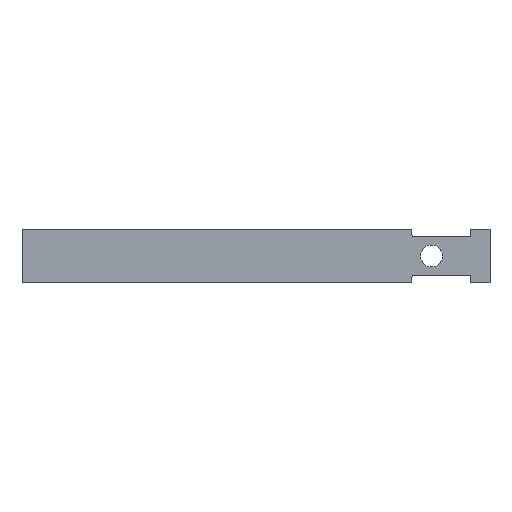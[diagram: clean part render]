
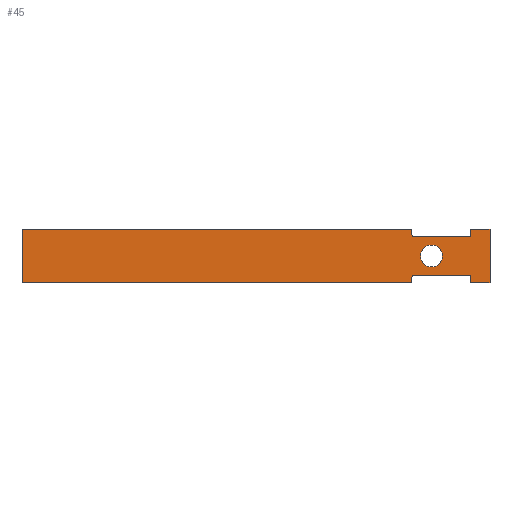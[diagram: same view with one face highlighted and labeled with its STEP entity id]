
A CAD part, top view. The second image highlights one B-rep face of the part: STEP entity #45.
In plain terms, the highlighted planar face has unit normal (0, 0, 1).
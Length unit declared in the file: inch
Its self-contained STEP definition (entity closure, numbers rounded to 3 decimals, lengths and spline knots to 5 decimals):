
#45=ADVANCED_FACE('',(#100,#101),#102,.T.);
#100=FACE_BOUND('',#171,.T.);
#101=FACE_OUTER_BOUND('',#172,.T.);
#102=PLANE('',#173);
#171=EDGE_LOOP('',(#252,#253,#254,#255));
#172=EDGE_LOOP('',(#256,#257,#258,#259,#260,#261,#262,#263,#264,#265,#266,#267));
#173=AXIS2_PLACEMENT_3D('',#268,#269,#270);
#252=ORIENTED_EDGE('',*,*,#404,.F.);
#253=ORIENTED_EDGE('',*,*,#409,.F.);
#254=ORIENTED_EDGE('',*,*,#410,.F.);
#255=ORIENTED_EDGE('',*,*,#411,.F.);
#256=ORIENTED_EDGE('',*,*,#412,.T.);
#257=ORIENTED_EDGE('',*,*,#413,.F.);
#258=ORIENTED_EDGE('',*,*,#414,.F.);
#259=ORIENTED_EDGE('',*,*,#415,.F.);
#260=ORIENTED_EDGE('',*,*,#416,.F.);
#261=ORIENTED_EDGE('',*,*,#417,.F.);
#262=ORIENTED_EDGE('',*,*,#418,.F.);
#263=ORIENTED_EDGE('',*,*,#419,.F.);
#264=ORIENTED_EDGE('',*,*,#420,.F.);
#265=ORIENTED_EDGE('',*,*,#421,.F.);
#266=ORIENTED_EDGE('',*,*,#422,.F.);
#267=ORIENTED_EDGE('',*,*,#423,.F.);
#268=CARTESIAN_POINT('',(0.0,0.68751,0.105));
#269=DIRECTION('',(0.0,-0.0,1.0));
#270=DIRECTION('',(0.0,1.0,0.0));
#404=EDGE_CURVE('',#471,#472,#473,.T.);
#409=EDGE_CURVE('',#480,#471,#481,.T.);
#410=EDGE_CURVE('',#482,#480,#483,.T.);
#411=EDGE_CURVE('',#472,#482,#484,.T.);
#412=EDGE_CURVE('',#485,#486,#487,.T.);
#413=EDGE_CURVE('',#488,#486,#489,.T.);
#414=EDGE_CURVE('',#490,#488,#491,.T.);
#415=EDGE_CURVE('',#492,#490,#493,.T.);
#416=EDGE_CURVE('',#494,#492,#495,.T.);
#417=EDGE_CURVE('',#496,#494,#497,.T.);
#418=EDGE_CURVE('',#498,#496,#499,.T.);
#419=EDGE_CURVE('',#500,#498,#501,.T.);
#420=EDGE_CURVE('',#502,#500,#503,.T.);
#421=EDGE_CURVE('',#504,#502,#505,.T.);
#422=EDGE_CURVE('',#506,#504,#507,.T.);
#423=EDGE_CURVE('',#485,#506,#508,.T.);
#471=VERTEX_POINT('',#570);
#472=VERTEX_POINT('',#571);
#473=B_SPLINE_CURVE_WITH_KNOTS('',3,(#572,#573,#574,#575),.UNSPECIFIED.,.F.,.F.,(4,4),(-1.0,-0.0),.UNSPECIFIED.);
#480=VERTEX_POINT('',#587);
#481=B_SPLINE_CURVE_WITH_KNOTS('',3,(#588,#589,#590,#591),.UNSPECIFIED.,.F.,.F.,(4,4),(-1.0,-0.0),.UNSPECIFIED.);
#482=VERTEX_POINT('',#592);
#483=B_SPLINE_CURVE_WITH_KNOTS('',3,(#593,#594,#595,#596),.UNSPECIFIED.,.F.,.F.,(4,4),(-1.0,-0.0),.UNSPECIFIED.);
#484=B_SPLINE_CURVE_WITH_KNOTS('',3,(#597,#598,#599,#600),.UNSPECIFIED.,.F.,.F.,(4,4),(-1.0,-0.0),.UNSPECIFIED.);
#485=VERTEX_POINT('',#601);
#486=VERTEX_POINT('',#602);
#487=LINE('',#603,#604);
#488=VERTEX_POINT('',#605);
#489=LINE('',#606,#607);
#490=VERTEX_POINT('',#608);
#491=LINE('',#609,#610);
#492=VERTEX_POINT('',#611);
#493=LINE('',#612,#613);
#494=VERTEX_POINT('',#614);
#495=LINE('',#615,#616);
#496=VERTEX_POINT('',#617);
#497=LINE('',#618,#619);
#498=VERTEX_POINT('',#620);
#499=LINE('',#621,#622);
#500=VERTEX_POINT('',#623);
#501=LINE('',#624,#625);
#502=VERTEX_POINT('',#626);
#503=LINE('',#627,#628);
#504=VERTEX_POINT('',#629);
#505=LINE('',#630,#631);
#506=VERTEX_POINT('',#632);
#507=LINE('',#633,#634);
#508=LINE('',#635,#636);
#570=CARTESIAN_POINT('',(7.49988,0.96876,0.105));
#571=CARTESIAN_POINT('',(7.21863,0.68751,0.105));
#572=CARTESIAN_POINT('',(7.49988,0.96876,0.105));
#573=CARTESIAN_POINT('',(7.34455,0.96876,0.105));
#574=CARTESIAN_POINT('',(7.21863,0.84284,0.105));
#575=CARTESIAN_POINT('',(7.21863,0.68751,0.105));
#587=CARTESIAN_POINT('',(7.78113,0.68751,0.105));
#588=CARTESIAN_POINT('',(7.78113,0.68751,0.105));
#589=CARTESIAN_POINT('',(7.78113,0.84284,0.105));
#590=CARTESIAN_POINT('',(7.65521,0.96876,0.105));
#591=CARTESIAN_POINT('',(7.49988,0.96876,0.105));
#592=CARTESIAN_POINT('',(7.49988,0.40626,0.105));
#593=CARTESIAN_POINT('',(7.49988,0.40626,0.105));
#594=CARTESIAN_POINT('',(7.65521,0.40626,0.105));
#595=CARTESIAN_POINT('',(7.78113,0.53219,0.105));
#596=CARTESIAN_POINT('',(7.78113,0.68751,0.105));
#597=CARTESIAN_POINT('',(7.21863,0.68751,0.105));
#598=CARTESIAN_POINT('',(7.21863,0.53219,0.105));
#599=CARTESIAN_POINT('',(7.34455,0.40626,0.105));
#600=CARTESIAN_POINT('',(7.49988,0.40626,0.105));
#601=CARTESIAN_POINT('',(-3.0,1.37501,0.105));
#602=CARTESIAN_POINT('',(-3.0,0.0,0.105));
#603=CARTESIAN_POINT('',(-3.0,0.0,0.105));
#604=VECTOR('',#734,1.0);
#605=CARTESIAN_POINT('',(6.99988,0.0,0.105));
#606=CARTESIAN_POINT('',(0.0,0.0,0.105));
#607=VECTOR('',#735,1.0);
#608=CARTESIAN_POINT('',(7.00003,0.1875,0.105));
#609=CARTESIAN_POINT('',(7.00003,0.1875,0.105));
#610=VECTOR('',#736,1.0);
#611=CARTESIAN_POINT('',(8.50003,0.1875,0.105));
#612=CARTESIAN_POINT('',(8.50003,0.1875,0.105));
#613=VECTOR('',#737,1.0);
#614=CARTESIAN_POINT('',(8.5,0.0,0.105));
#615=CARTESIAN_POINT('',(8.5,0.0,0.105));
#616=VECTOR('',#738,1.0);
#617=CARTESIAN_POINT('',(9.,0.0,0.105));
#618=CARTESIAN_POINT('',(9.,0.0,0.105));
#619=VECTOR('',#739,1.0);
#620=CARTESIAN_POINT('',(9.,1.37501,0.105));
#621=CARTESIAN_POINT('',(9.,1.37501,0.105));
#622=VECTOR('',#740,1.0);
#623=CARTESIAN_POINT('',(8.5,1.37501,0.105));
#624=CARTESIAN_POINT('',(8.5,1.37501,0.105));
#625=VECTOR('',#741,1.0);
#626=CARTESIAN_POINT('',(8.50003,1.18751,0.105));
#627=CARTESIAN_POINT('',(8.50003,1.18751,0.105));
#628=VECTOR('',#742,1.0);
#629=CARTESIAN_POINT('',(7.00003,1.18751,0.105));
#630=CARTESIAN_POINT('',(7.00003,1.18751,0.105));
#631=VECTOR('',#743,1.0);
#632=CARTESIAN_POINT('',(6.99988,1.37501,0.105));
#633=CARTESIAN_POINT('',(6.99988,1.37501,0.105));
#634=VECTOR('',#744,1.0);
#635=CARTESIAN_POINT('',(0.0,1.37501,0.105));
#636=VECTOR('',#745,1.0);
#734=DIRECTION('',(-0.0,-1.0,-0.0));
#735=DIRECTION('',(-1.0,0.0,0.0));
#736=DIRECTION('',(-0.001,-1.,0.0));
#737=DIRECTION('',(-1.0,0.0,0.0));
#738=DIRECTION('',(0.,1.,0.0));
#739=DIRECTION('',(-1.0,0.0,0.0));
#740=DIRECTION('',(0.0,-1.0,0.0));
#741=DIRECTION('',(1.0,0.0,0.0));
#742=DIRECTION('',(0.,1.,0.0));
#743=DIRECTION('',(1.0,0.0,0.0));
#744=DIRECTION('',(0.001,-1.,0.0));
#745=DIRECTION('',(1.0,0.0,0.0));
